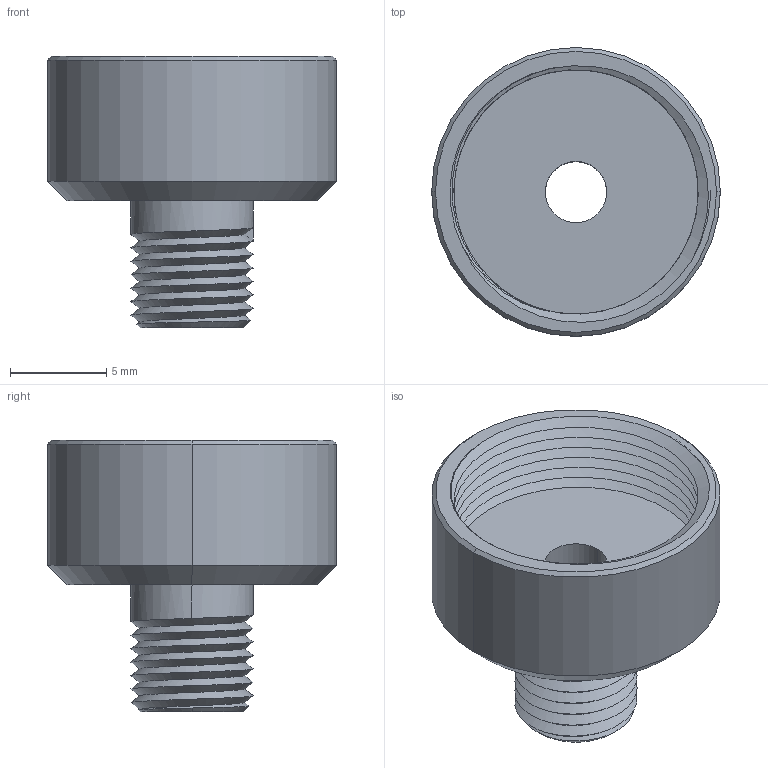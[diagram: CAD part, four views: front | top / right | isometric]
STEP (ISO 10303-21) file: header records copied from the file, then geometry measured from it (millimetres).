
FILE_DESCRIPTION (( 'STEP AP214' ), '1' );
FILE_NAME ('14176-E01.step', '2007-11-13T11:07:07', ( ' ' ), ( ' ' ), 'SwSTEP 2.0', 'SolidWorks 2007', '' );
FILE_SCHEMA (( 'AUTOMOTIVE_DESIGN' ));
Length unit declared in the file: millimetre
Products named in the file (1): 14176-E01
Bounding box: 15 x 15 x 14.1 mm (x, y, z)
Volume: 781.5 mm3; surface area: 1342.6 mm2
Topology: 1 solids, 1 shells, 24 faces, 52 edges, 32 vertices
Faces by surface type: cone 9, cylinder 6, plane 5, bspline 4
Entity records: 2336 total; most frequent: CARTESIAN_POINT 1821, ORIENTED_EDGE 104, DIRECTION 97, EDGE_CURVE 52, AXIS2_PLACEMENT_3D 40, VERTEX_POINT 32, EDGE_LOOP 28, FACE_OUTER_BOUND 24
